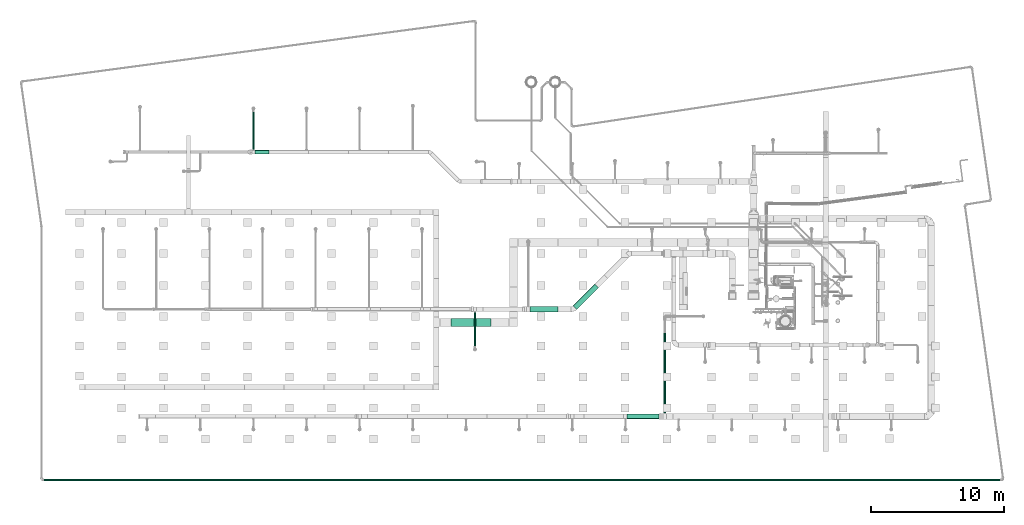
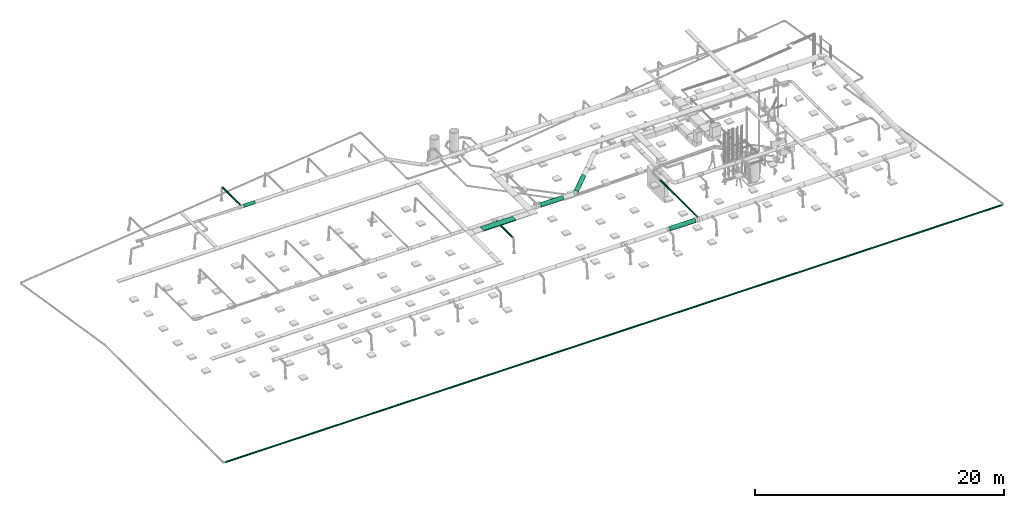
# One storey, part 201 of 374: 8 flow segments, 1 distribution element.
"""IFC2X3 building model written with IfcOpenShell, lengths in metres."""

import ifcopenshell
import ifcopenshell.guid

model = None  # the IFC model being written
_history = None  # IfcOwnerHistory: only IFC2X3 demands one
_inside = {}  # id of a spatial element -> (the spatial element, [elements in it])
_under = {}  # id of a project, library or spatial element -> (it, [spatial elements below it])
_declared = {}  # id of a project -> (the project, [libraries it declares])
_typed = {}  # id of a type object -> (the type object, [elements of that type])
_made_of = {}  # id of a material, layer set ... -> (it, [elements and type objects made of it])


def new_model(schema):
    """Start an empty IFC model of exactly this schema.

    Asked for "IFC4X3", IfcOpenShell would pick the latest addendum, in which some entities
    have other attributes; the version numbers below select the first issue.
    IFC2X3 requires an IfcOwnerHistory on every rooted entity: one is made here for all.
    """
    global model, _history
    if schema == "IFC4X3":
        model = ifcopenshell.file(schema_version=(4, 3, 0, 0))
    else:
        model = ifcopenshell.file(schema=schema)
    _inside.clear()
    _under.clear()
    _declared.clear()
    _typed.clear()
    _made_of.clear()
    _history = None
    if model.schema == "IFC2X3":
        org = make("IfcOrganization", Name="unknown")
        user = make(
            "IfcPersonAndOrganization",
            ThePerson=make("IfcPerson", FamilyName="unknown"),
            TheOrganization=org,
        )
        app = make(
            "IfcApplication",
            ApplicationDeveloper=org,
            Version="unknown",
            ApplicationFullName="unknown",
            ApplicationIdentifier="unknown",
        )
        _history = make(
            "IfcOwnerHistory",
            OwningUser=user,
            OwningApplication=app,
            ChangeAction="ADDED",
            CreationDate=0,
        )
    return model


def make(cls, **values):
    """One entity of the class cls with the attributes given. An attribute that is None is left unset."""
    return model.create_entity(
        cls, **{name: value for name, value in values.items() if value is not None}
    )


def rooted(cls, **values):
    """An entity with a GlobalId (a new one), such as an element, a storey or a relation."""
    return make(cls, GlobalId=ifcopenshell.guid.new(), OwnerHistory=_history, **values)


def si_unit(unit_type, name, prefix=None):
    """IfcSIUnit, for example si_unit("LENGTHUNIT", "METRE", prefix="MILLI")."""
    return make("IfcSIUnit", UnitType=unit_type, Prefix=prefix, Name=name)


def assignment(units):
    """IfcUnitAssignment: the units of a project."""
    return None if units is None else make("IfcUnitAssignment", Units=units)


def point(xyz):
    """IfcCartesianPoint."""
    return None if xyz is None else make("IfcCartesianPoint", Coordinates=xyz)


def direction(xyz):
    """IfcDirection."""
    return None if xyz is None else make("IfcDirection", DirectionRatios=xyz)


def frame(location, z_axis=None, x_axis=None):
    """IfcAxis2Placement3D, a coordinate frame: its origin and axes. An axis left out is left unset."""
    return make(
        "IfcAxis2Placement3D",
        Location=point(location),
        Axis=direction(z_axis),
        RefDirection=direction(x_axis),
    )


def origin():
    """The frame at (0, 0, 0) with its axes left unset."""
    return frame((0.0, 0.0, 0.0))


def place(relative_to, where):
    """IfcLocalPlacement: puts the frame where relative to a parent placement (None: the world)."""
    return make(
        "IfcLocalPlacement", PlacementRelTo=relative_to, RelativePlacement=where
    )


def context(
    kind, dimensions, precision=None, world=None, true_north=None, identifier=None
):
    """IfcGeometricRepresentationContext, for example the 3D "Model" context."""
    return make(
        "IfcGeometricRepresentationContext",
        ContextIdentifier=identifier,
        ContextType=kind,
        CoordinateSpaceDimension=dimensions,
        Precision=precision,
        WorldCoordinateSystem=world,
        TrueNorth=true_north,
    )


def subcontext(parent, identifier, kind, view, scale=None):
    """IfcGeometricRepresentationSubContext, for example "Body" below "Model"."""
    return make(
        "IfcGeometricRepresentationSubContext",
        ContextIdentifier=identifier,
        ContextType=kind,
        ParentContext=parent,
        TargetScale=scale,
        TargetView=view,
    )


def project(units=None, contexts=None):
    """IfcProject with its units and contexts."""
    return rooted(
        "IfcProject",
        Name="project",
        RepresentationContexts=contexts,
        UnitsInContext=assignment(units),
    )


def spatial(cls, under=None, at=None, **own):
    """A site, building, storey or space (cls), placed at a placement, below another one or the project."""
    s = rooted(cls, ObjectPlacement=at, **own)
    if under is not None:
        _under.setdefault(under.id(), (under, []))[1].append(s)
    return s


def faces_of(points, faces, orient=None, outer=None):
    """IfcFace entities. A face is a list of loops; a loop is a list of indices into points, from 0.

    orient and outer hold one flag for each loop. By default every Orientation is true, the
    first loop of a face is its IfcFaceOuterBound and the others are IfcFaceBound.
    """
    made = []
    for i, loops in enumerate(faces):
        bounds = []
        for j, loop in enumerate(loops):
            is_outer = j == 0 if outer is None else outer[i][j]
            bounds.append(
                make(
                    "IfcFaceOuterBound" if is_outer else "IfcFaceBound",
                    Bound=make("IfcPolyLoop", Polygon=[points[k] for k in loop]),
                    Orientation=True if orient is None else orient[i][j],
                )
            )
        made.append(make("IfcFace", Bounds=bounds))
    return made


def open_shell(faces, orient=None, outer=None):
    """The faces of one IfcOpenShell. surface_model builds it on its shared points."""
    return ("IfcOpenShell", faces, orient, outer)


def surface_model(cls, points, shells):
    """IfcFaceBasedSurfaceModel or IfcShellBasedSurfaceModel (cls): surfaces that need not close."""
    shared = [point(p) for p in points]
    made = [make(c, CfsFaces=faces_of(shared, fs, o, b)) for c, fs, o, b in shells]
    if cls == "IfcFaceBasedSurfaceModel":
        return make(cls, FbsmFaces=made)
    return make(cls, SbsmBoundary=made)


def shape(context_of_items, identifier, shape_type, items):
    """IfcShapeRepresentation: the items that make up one representation, for example the "Body"."""
    return make(
        "IfcShapeRepresentation",
        ContextOfItems=context_of_items,
        RepresentationIdentifier=identifier,
        RepresentationType=shape_type,
        Items=items,
    )


def source(mapping_origin, context_of_items, identifier, shape_type, items):
    """IfcRepresentationMap: a shape defined once, which mapped items show again and again."""
    return make(
        "IfcRepresentationMap",
        MappingOrigin=mapping_origin,
        MappedRepresentation=shape(context_of_items, identifier, shape_type, items),
    )


def transform(
    local_origin,
    x_axis=None,
    y_axis=None,
    z_axis=None,
    scale=None,
    scale2=None,
    scale3=None,
    uniform=True,
):
    """IfcCartesianTransformationOperator3D, or its non-uniform kind. x_axis, y_axis, z_axis: its Axis1, 2, 3."""
    if uniform:
        return make(
            "IfcCartesianTransformationOperator3D",
            Axis1=direction(x_axis),
            Axis2=direction(y_axis),
            LocalOrigin=point(local_origin),
            Scale=scale,
            Axis3=direction(z_axis),
        )
    return make(
        "IfcCartesianTransformationOperator3DnonUniform",
        Axis1=direction(x_axis),
        Axis2=direction(y_axis),
        LocalOrigin=point(local_origin),
        Scale=scale,
        Axis3=direction(z_axis),
        Scale2=scale2,
        Scale3=scale3,
    )


def mapped(mapping_source, mapping_target):
    """IfcMappedItem: shows the shape of a source again, moved by a transform."""
    return make(
        "IfcMappedItem", MappingSource=mapping_source, MappingTarget=mapping_target
    )


def made_of(thing, what):
    """Note that an element or type object is made of a material, layer set ...; save() writes the relation."""
    if what is not None:
        _made_of.setdefault(what.id(), (what, []))[1].append(thing)
    return thing


def element(
    cls,
    number,
    at=None,
    inside=None,
    cuts=None,
    type_object=None,
    material=None,
    context=None,
    identifier="Body",
    shape_type=None,
    held_by="IfcProductDefinitionShape",
    body=None,
    shapes=None,
    **own,
):
    """One element of the class cls, such as IfcWall. Its Tag is "e" and its number.

    at: its placement. inside: the storey or other place that contains it. cuts: it is an
    opening in that element (IfcRelVoidsElement). A single representation is given by context,
    identifier, shape_type and body (its items); several are given by shapes. held_by: the class
    of the entity that holds the representations. save() writes the other relations.
    """
    e = rooted(cls, Tag="e%d" % number, ObjectPlacement=at, **own)
    if body is not None:
        shapes = [shape(context, identifier, shape_type, body)]
    if shapes is not None:
        e.Representation = make(held_by, Representations=shapes)
    if inside is not None:
        _inside.setdefault(inside.id(), (inside, []))[1].append(e)
    if cuts is not None:
        rooted(
            "IfcRelVoidsElement", RelatingBuildingElement=cuts, RelatedOpeningElement=e
        )
    if type_object is not None:
        _typed.setdefault(type_object.id(), (type_object, []))[1].append(e)
    return made_of(e, material)


def aggregate(whole, parts):
    """IfcRelAggregates: a whole, such as a stair, and the parts it consists of."""
    return rooted("IfcRelAggregates", RelatingObject=whole, RelatedObjects=parts)


def save(model, path):
    """Write the relations noted so far, then the file.

    IfcRelAggregates (storeys below a building ...), IfcRelContainedInSpatialStructure (elements
    in a storey), IfcRelDefinesByType, IfcRelAssociatesMaterial and IfcRelDeclares: one each for
    every whole, place, type object, material and project.
    """
    for whole, parts in _under.values():
        aggregate(whole, parts)
    for where, things in _inside.values():
        rooted(
            "IfcRelContainedInSpatialStructure",
            RelatedElements=things,
            RelatingStructure=where,
        )
    for kind, things in _typed.values():
        rooted("IfcRelDefinesByType", RelatedObjects=things, RelatingType=kind)
    for what, things in _made_of.values():
        rooted("IfcRelAssociatesMaterial", RelatedObjects=things, RelatingMaterial=what)
    for by, libraries in _declared.values():
        rooted("IfcRelDeclares", RelatingContext=by, RelatedDefinitions=libraries)
    model.write(path)


model = new_model("IFC2X3")

# Units and contexts
model_context = context("Model", 3, precision=1e-05, world=origin(), true_north=direction((-0.4480736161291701, 0.8939966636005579)))
body_context = subcontext(model_context, "Body", "Model", "MODEL_VIEW")
ifc_project = project(units=[si_unit("LENGTHUNIT", "METRE"), si_unit("AREAUNIT", "SQUARE_METRE"), si_unit("VOLUMEUNIT", "CUBIC_METRE"), si_unit("PLANEANGLEUNIT", "RADIAN"), si_unit("THERMODYNAMICTEMPERATUREUNIT", "KELVIN"), si_unit("MASSUNIT", "GRAM", prefix="KILO"), si_unit("TIMEUNIT", "SECOND")], contexts=[model_context])

# Site, building, storey
site_placement = place(None, origin())
site = spatial("IfcSite", under=ifc_project, at=site_placement, Name="Site 1", CompositionType="ELEMENT")
building_placement = place(site_placement, origin())
building = spatial("IfcBuilding", under=site, at=building_placement, Name="Undefined", CompositionType="ELEMENT")
storey_placement = place(building_placement, origin())
storey = spatial("IfcBuildingStorey", under=building, at=storey_placement, Name="Rez de chauss\x8ee", CompositionType="ELEMENT", Elevation=0.0)

# Flow segments
shared_shape_1 = source(origin(), body_context, "Body", "SurfaceModel", [
    surface_model("IfcFaceBasedSurfaceModel", [(1.522483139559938e-08, 0.02088419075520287, 0.0), (0.0, 0.0, 0.0), (72.00146022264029, 4.4408921e-16, 0.0), (72.00146023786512, 0.02088419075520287, 0.0), (-1.4187284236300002e-08, -0.02017257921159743, -0.005405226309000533), (72.00146020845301, -0.020172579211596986, -0.005405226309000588), (-2.6370181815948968e-08, -0.03825881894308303, -0.0158473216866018), (72.00146019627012, -0.038258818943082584, -0.015847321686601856), (-3.571844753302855e-08, -0.05302617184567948, -0.030614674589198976), (72.00146018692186, -0.053026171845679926, -0.030614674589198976), (-4.1595012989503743e-08, -0.06346826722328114, -0.04870091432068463), (72.00146018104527, -0.06346826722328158, -0.04870091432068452), (-4.3599400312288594e-08, -0.06887349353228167, -0.06887349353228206), (72.00146017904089, -0.06887349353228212, -0.06887349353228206), (-4.1595012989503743e-08, -0.06887349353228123, -0.08975768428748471), (72.00146018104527, -0.06887349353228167, -0.0897576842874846), (-3.571844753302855e-08, -0.06346826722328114, -0.10993026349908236), (72.00146018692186, -0.06346826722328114, -0.10993026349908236), (-2.6370181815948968e-08, -0.053026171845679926, -0.12801650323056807), (72.00146019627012, -0.053026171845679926, -0.12801650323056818), (-1.4187284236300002e-08, -0.03825881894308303, -0.14278385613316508), (72.00146020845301, -0.038258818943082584, -0.1427838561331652), (0.0, -0.020172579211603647, -0.15322595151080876), (72.00146022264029, -0.020172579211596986, -0.1532259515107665), (1.522483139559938e-08, 4.4408921e-16, -0.15863117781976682), (72.00146023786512, 4.4408921e-16, -0.15863117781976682), (3.044966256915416e-08, 0.02088419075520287, -0.15863117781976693), (72.00146025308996, 0.020884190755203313, -0.15863117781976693), (4.463694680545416e-08, 0.041056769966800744, -0.1532259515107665), (72.00146026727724, 0.041056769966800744, -0.1532259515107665), (5.681984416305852e-08, 0.05914300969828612, -0.1427838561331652), (72.00146027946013, 0.05914300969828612, -0.1427838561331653), (6.616811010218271e-08, 0.07391036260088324, -0.12801650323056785), (72.0014602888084, 0.07391036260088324, -0.12801650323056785), (7.20446755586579e-08, 0.08435245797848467, -0.10993026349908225), (72.00146029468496, 0.0843524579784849, -0.10993026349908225), (7.404906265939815e-08, 0.0897576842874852, -0.08975768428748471), (72.00146029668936, 0.08975768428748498, -0.08975768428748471), (7.20446755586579e-08, 0.0897576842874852, -0.06887349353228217), (72.00146029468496, 0.08975768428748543, -0.06887349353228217), (6.616811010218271e-08, 0.08435245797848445, -0.04870091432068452), (72.0014602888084, 0.08435245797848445, -0.04870091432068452), (5.681984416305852e-08, 0.07391036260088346, -0.03061467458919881), (72.00146027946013, 0.07391036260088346, -0.030614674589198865), (4.463694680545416e-08, 0.05914300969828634, -0.0158473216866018), (72.00146026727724, 0.05914300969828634, -0.0158473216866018), (3.044966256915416e-08, 0.04105676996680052, -0.005405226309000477), (72.00146025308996, 0.041056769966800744, -0.005405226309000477)], [open_shell([[[0, 1, 2, 3]], [[1, 4, 5, 2]], [[4, 6, 7, 5]], [[6, 8, 9, 7]], [[8, 10, 11, 9]], [[10, 12, 13, 11]], [[12, 14, 15, 13]], [[14, 16, 17, 15]], [[16, 18, 19, 17]], [[18, 20, 21, 19]], [[20, 22, 23, 21]], [[22, 24, 25, 23]], [[24, 26, 27, 25]], [[26, 28, 29, 27]], [[28, 30, 31, 29]], [[30, 32, 33, 31]], [[32, 34, 35, 33]], [[34, 36, 37, 35]], [[36, 38, 39, 37]], [[38, 40, 41, 39]], [[40, 42, 43, 41]], [[42, 44, 45, 43]], [[44, 46, 47, 45]], [[46, 0, 3, 47]]])]),
])
flow_segment_1_placement = place(storey_placement, origin())
element("IfcFlowSegment", 1, at=flow_segment_1_placement, inside=storey, Name="PE-HD tuyau", ObjectType="PE-HD tuyau", context=body_context, shape_type="MappedRepresentation", body=[
    mapped(shared_shape_1, transform((-1.4937931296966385, -1.9462605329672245, -0.7163137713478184), x_axis=(0.9999999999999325, 3.6765144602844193e-07, 0.0), y_axis=(-3.645061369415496e-07, 0.9914448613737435, 0.13052619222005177), z_axis=(4.798814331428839e-08, -0.13052619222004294, 0.9914448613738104))),
])
shared_shape_2 = source(origin(), body_context, "Body", "SurfaceModel", [
    surface_model("IfcFaceBasedSurfaceModel", [(0.0, 0.05221047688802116, -8.8817842e-16), (0.0, 0.0, 0.0), (2.306370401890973, 7.105427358e-15, -4.4408921e-16), (2.306370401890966, 0.052210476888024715, -8.8817842e-16), (0.0, -0.05043144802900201, -0.013513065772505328), (2.306370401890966, -0.05043144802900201, -0.01351306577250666), (0.0, -0.09564704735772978, -0.0396183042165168), (2.306370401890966, -0.09564704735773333, -0.0396183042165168), (0.0, -0.1325654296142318, -0.07653668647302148), (2.306370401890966, -0.1325654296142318, -0.07653668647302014), (0.0, -0.15867066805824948, -0.12175228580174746), (2.306370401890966, -0.15867066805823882, -0.12175228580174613), (0.0, -0.17218373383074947, -0.17218373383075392), (2.306370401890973, -0.17218373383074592, -0.17218373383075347), (0.0, -0.17218373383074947, -0.22439421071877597), (2.306370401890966, -0.17218373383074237, -0.22439421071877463), (0.0, -0.15867066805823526, -0.2748256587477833), (2.306370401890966, -0.15867066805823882, -0.274825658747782), (0.0, -0.1325654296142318, -0.3200412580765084), (2.306370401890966, -0.13256542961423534, -0.3200412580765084), (0.0, -0.09564704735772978, -0.35695964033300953), (2.306370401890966, -0.09564704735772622, -0.35695964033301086), (0.0, -0.050431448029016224, -0.3830648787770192), (2.306370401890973, -0.05043144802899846, -0.383064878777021), (0.0, 0.0, -0.39657794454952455), (2.306370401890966, 7.105427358e-15, -0.39657794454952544), (0.0, 0.05221047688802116, -0.3965779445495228), (2.306370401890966, 0.05221047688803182, -0.3965779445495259), (0.0, 0.10264192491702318, -0.38306487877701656), (2.306370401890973, 0.10264192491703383, -0.38306487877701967), (0.0, 0.14785752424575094, -0.356959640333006), (2.306370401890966, 0.1478575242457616, -0.35695964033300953), (0.0, 0.18477590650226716, -0.32004125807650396), (2.306370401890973, 0.1847759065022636, -0.32004125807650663), (0.0, 0.21088114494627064, -0.2748256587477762), (2.306370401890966, 0.21088114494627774, -0.2748256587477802), (0.0, 0.22439421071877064, -0.22439421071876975), (2.306370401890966, 0.2243942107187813, -0.22439421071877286), (0.0, 0.22439421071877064, -0.1721837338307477), (2.306370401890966, 0.2243942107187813, -0.1721837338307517), (0.0, 0.21088114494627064, -0.12175228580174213), (2.306370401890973, 0.21088114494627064, -0.1217522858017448), (0.0, 0.18477590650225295, -0.07653668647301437), (2.306370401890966, 0.1847759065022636, -0.07653668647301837), (0.0, 0.14785752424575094, -0.03961830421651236), (2.306370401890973, 0.14785752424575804, -0.039618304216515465), (0.0, 0.10264192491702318, -0.013513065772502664), (2.306370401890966, 0.10264192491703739, -0.013513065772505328)], [open_shell([[[0, 1, 2, 3]], [[1, 4, 5, 2]], [[4, 6, 7, 5]], [[6, 8, 9, 7]], [[8, 10, 11, 9]], [[10, 12, 13, 11]], [[12, 14, 15, 13]], [[14, 16, 17, 15]], [[16, 18, 19, 17]], [[18, 20, 21, 19]], [[20, 22, 23, 21]], [[22, 24, 25, 23]], [[24, 26, 27, 25]], [[26, 28, 29, 27]], [[28, 30, 31, 29]], [[30, 32, 33, 31]], [[32, 34, 35, 33]], [[34, 36, 37, 35]], [[36, 38, 39, 37]], [[38, 40, 41, 39]], [[40, 42, 43, 41]], [[42, 44, 45, 43]], [[44, 46, 47, 45]], [[46, 0, 3, 47]]])]),
])
flow_segment_2_placement = place(storey_placement, origin())
element("IfcFlowSegment", 2, at=flow_segment_2_placement, inside=storey, Name="Tube", ObjectType="Tube", context=body_context, shape_type="MappedRepresentation", body=[
    mapped(shared_shape_2, transform((40.08847740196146, 12.703803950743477, 3.9931851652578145), x_axis=(-0.7071067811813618, -0.7071067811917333, 1.4287841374e-14), y_axis=(0.7010573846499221, -0.7010573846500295, 0.13052619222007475), z_axis=(-0.09229595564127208, 0.09229595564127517, 0.9914448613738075))),
])
shared_shape_3 = source(origin(), body_context, "Body", "SurfaceModel", [
    surface_model("IfcFaceBasedSurfaceModel", [(0.0, 0.05221047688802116, -8.8817842e-16), (0.0, 0.0, 0.0), (2.1053912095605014, 1.776356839e-15, -8.8817842e-16), (2.1053912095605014, 0.05221047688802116, -8.8817842e-16), (0.0, -0.05043144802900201, -0.013513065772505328), (2.1053912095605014, -0.05043144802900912, -0.013513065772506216), (0.0, -0.09564704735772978, -0.0396183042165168), (2.1053912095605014, -0.09564704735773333, -0.03961830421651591), (0.0, -0.1325654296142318, -0.07653668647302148), (2.1053912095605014, -0.13256542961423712, -0.07653668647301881), (0.0, -0.15867066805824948, -0.12175228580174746), (2.1053912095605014, -0.15867066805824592, -0.1217522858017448), (0.0, -0.17218373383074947, -0.17218373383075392), (2.1053912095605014, -0.17218373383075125, -0.17218373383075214), (0.0, -0.17218373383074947, -0.22439421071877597), (2.1053912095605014, -0.17218373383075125, -0.2243942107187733), (0.0, -0.15867066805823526, -0.2748256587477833), (2.1053912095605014, -0.1586706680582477, -0.27482565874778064), (0.0, -0.1325654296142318, -0.3200412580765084), (2.1053912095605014, -0.13256542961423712, -0.3200412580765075), (0.0, -0.09564704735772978, -0.35695964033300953), (2.1053912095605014, -0.0956470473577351, -0.3569596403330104), (0.0, -0.050431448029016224, -0.3830648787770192), (2.1053912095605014, -0.05043144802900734, -0.383064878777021), (0.0, 0.0, -0.39657794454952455), (2.1053912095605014, -1.776356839e-15, -0.39657794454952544), (0.0, 0.05221047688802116, -0.3965779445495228), (2.1053912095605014, 0.05221047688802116, -0.39657794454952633), (0.0, 0.10264192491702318, -0.38306487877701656), (2.1053912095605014, 0.10264192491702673, -0.383064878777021), (0.0, 0.14785752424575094, -0.356959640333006), (2.1053912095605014, 0.1478575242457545, -0.3569596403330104), (0.0, 0.18477590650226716, -0.32004125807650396), (2.1053912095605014, 0.18477590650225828, -0.3200412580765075), (0.0, 0.21088114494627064, -0.2748256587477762), (2.1053912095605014, 0.21088114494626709, -0.27482565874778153), (0.0, 0.22439421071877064, -0.22439421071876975), (2.1053912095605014, 0.2243942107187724, -0.2243942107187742), (0.0, 0.22439421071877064, -0.1721837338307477), (2.1053912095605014, 0.2243942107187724, -0.17218373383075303), (0.0, 0.21088114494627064, -0.12175228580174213), (2.1053912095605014, 0.21088114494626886, -0.12175228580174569), (0.0, 0.18477590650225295, -0.07653668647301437), (2.1053912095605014, 0.18477590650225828, -0.0765366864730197), (0.0, 0.14785752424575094, -0.03961830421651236), (2.1053912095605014, 0.14785752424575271, -0.0396183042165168), (0.0, 0.10264192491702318, -0.013513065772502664), (2.1053912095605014, 0.1026419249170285, -0.013513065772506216)], [open_shell([[[0, 1, 2, 3]], [[1, 4, 5, 2]], [[4, 6, 7, 5]], [[6, 8, 9, 7]], [[8, 10, 11, 9]], [[10, 12, 13, 11]], [[12, 14, 15, 13]], [[14, 16, 17, 15]], [[16, 18, 19, 17]], [[18, 20, 21, 19]], [[20, 22, 23, 21]], [[22, 24, 25, 23]], [[24, 26, 27, 25]], [[26, 28, 29, 27]], [[28, 30, 31, 29]], [[30, 32, 33, 31]], [[32, 34, 35, 33]], [[34, 36, 37, 35]], [[36, 38, 39, 37]], [[38, 40, 41, 39]], [[40, 42, 43, 41]], [[42, 44, 45, 43]], [[44, 46, 47, 45]], [[46, 0, 3, 47]]])]),
])
flow_segment_3_placement = place(storey_placement, origin())
element("IfcFlowSegment", 3, at=flow_segment_3_placement, inside=storey, Name="Tube", ObjectType="Tube", context=body_context, shape_type="MappedRepresentation", body=[
    mapped(shared_shape_3, transform((37.21138707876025, 10.970957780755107, 3.9931851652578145), x_axis=(-1.0, 0.0, 0.0), y_axis=(7.266545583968e-12, -0.9914448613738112, 0.13052619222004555), z_axis=(0.0, 0.13052619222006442, 0.9914448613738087))),
])
shared_shape_4 = source(origin(), body_context, "Body", "SurfaceModel", [
    surface_model("IfcFaceBasedSurfaceModel", [(0.0, 0.020884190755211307, 0.0), (0.0, 0.0, 0.0), (2.5475826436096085, 0.0, 6.9388939e-16), (2.5475826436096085, 0.020884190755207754, 6.9388939e-16), (0.0, -0.020172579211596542, -0.005405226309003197), (2.5475826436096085, -0.020172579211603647, -0.005405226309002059), (0.0, -0.03825881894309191, -0.015847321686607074), (2.5475826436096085, -0.03825881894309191, -0.01584732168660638), (0.0, -0.05302617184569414, -0.0306146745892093), (2.5475826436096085, -0.05302617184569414, -0.030614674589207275), (0.0, -0.06346826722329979, -0.04870091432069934), (2.5475826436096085, -0.06346826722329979, -0.048700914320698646), (0.0, -0.06887349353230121, -0.06887349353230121), (2.5475826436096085, -0.06887349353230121, -0.06887349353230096), (0.0, -0.06887349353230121, -0.08975768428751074), (2.5475826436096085, -0.06887349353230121, -0.0897576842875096), (0.0, -0.06346826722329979, -0.10993026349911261), (2.5475826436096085, -0.06346826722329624, -0.10993026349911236), (0.0, -0.05302617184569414, -0.12801650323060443), (2.5475826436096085, -0.053026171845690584, -0.1280165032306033), (0.0, -0.038258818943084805, -0.14278385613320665), (2.5475826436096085, -0.03825881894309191, -0.14278385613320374), (0.0, -0.020172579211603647, -0.15322595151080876), (2.5475826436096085, -0.020172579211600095, -0.15322595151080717), (0.0, 7.105427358e-15, -0.15863117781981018), (2.5475826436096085, 3.552713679e-15, -0.15863117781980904), (0.0, 0.020884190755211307, -0.15863117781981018), (2.5475826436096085, 0.020884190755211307, -0.1586311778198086), (0.0, 0.04105676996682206, -0.15322595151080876), (2.5475826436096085, 0.0410567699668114, -0.15322595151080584), (0.0, 0.05914300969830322, -0.1427838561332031), (2.5475826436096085, 0.05914300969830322, -0.14278385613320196), (0.0, 0.07391036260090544, -0.12801650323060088), (2.5475826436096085, 0.07391036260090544, -0.12801650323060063), (0.0, 0.0843524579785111, -0.10993026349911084), (2.5475826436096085, 0.08435245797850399, -0.1099302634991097), (0.0, 0.08975768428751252, -0.08975768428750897), (2.5475826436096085, 0.08975768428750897, -0.08975768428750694), (0.0, 0.08975768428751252, -0.06887349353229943), (2.5475826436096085, 0.08975768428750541, -0.06887349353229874), (0.0, 0.0843524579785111, -0.048700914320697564), (2.5475826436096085, 0.08435245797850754, -0.04870091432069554), (0.0, 0.07391036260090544, -0.030614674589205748), (2.5475826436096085, 0.07391036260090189, -0.030614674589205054), (0.0, 0.05914300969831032, -0.015847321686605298), (2.5475826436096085, 0.059143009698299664, -0.01584732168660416), (0.0, 0.04105676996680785, -0.005405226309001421), (2.5475826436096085, 0.0410567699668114, -0.005405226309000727)], [open_shell([[[0, 1, 2, 3]], [[1, 4, 5, 2]], [[4, 6, 7, 5]], [[6, 8, 9, 7]], [[8, 10, 11, 9]], [[10, 12, 13, 11]], [[12, 14, 15, 13]], [[14, 16, 17, 15]], [[16, 18, 19, 17]], [[18, 20, 21, 19]], [[20, 22, 23, 21]], [[22, 24, 25, 23]], [[24, 26, 27, 25]], [[26, 28, 29, 27]], [[28, 30, 31, 29]], [[30, 32, 33, 31]], [[32, 34, 35, 33]], [[34, 36, 37, 35]], [[36, 38, 39, 37]], [[38, 40, 41, 39]], [[40, 42, 43, 41]], [[42, 44, 45, 43]], [[44, 46, 47, 45]], [[46, 0, 3, 47]]])]),
])
flow_segment_4_placement = place(storey_placement, origin())
element("IfcFlowSegment", 4, at=flow_segment_4_placement, inside=storey, Name="Tube", ObjectType="Tube", context=body_context, shape_type="MappedRepresentation", body=[
    mapped(shared_shape_4, transform((30.943919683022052, 10.689193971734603, 3.877274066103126), x_axis=(0.0, -1.0, 0.0), y_axis=(0.9914448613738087, 0.0, 0.13052619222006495), z_axis=(-0.13052619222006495, 0.0, 0.9914448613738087))),
])
shared_shape_5 = source(origin(), body_context, "Body", "SurfaceModel", [
    surface_model("IfcFaceBasedSurfaceModel", [(0.0, 0.05221047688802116, -8.8817842e-16), (0.0, 0.0, 0.0), (2.411199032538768, 0.0, 0.0), (2.411199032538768, 0.05221047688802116, -8.8817842e-16), (0.0, -0.05043144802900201, -0.013513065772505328), (2.411199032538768, -0.05043144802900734, -0.013513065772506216), (0.0, -0.09564704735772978, -0.0396183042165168), (2.411199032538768, -0.09564704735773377, -0.03961830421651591), (0.0, -0.1325654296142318, -0.07653668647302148), (2.411199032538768, -0.13256542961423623, -0.07653668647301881), (0.0, -0.15867066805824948, -0.12175228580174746), (2.411199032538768, -0.15867066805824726, -0.1217522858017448), (0.0, -0.17218373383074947, -0.17218373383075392), (2.411199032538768, -0.1721837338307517, -0.17218373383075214), (0.0, -0.17218373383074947, -0.22439421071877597), (2.411199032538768, -0.17218373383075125, -0.2243942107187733), (0.0, -0.15867066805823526, -0.2748256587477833), (2.411199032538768, -0.1586706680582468, -0.27482565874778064), (0.0, -0.1325654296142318, -0.3200412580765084), (2.411199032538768, -0.13256542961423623, -0.3200412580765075), (0.0, -0.09564704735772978, -0.35695964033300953), (2.411199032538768, -0.09564704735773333, -0.35695964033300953), (0.0, -0.050431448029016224, -0.3830648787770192), (2.411199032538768, -0.050431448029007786, -0.38306487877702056), (0.0, 0.0, -0.39657794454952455), (2.411199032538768, 0.0, -0.396577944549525), (0.0, 0.05221047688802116, -0.3965779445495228), (2.411199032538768, 0.05221047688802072, -0.396577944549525), (0.0, 0.10264192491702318, -0.38306487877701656), (2.411199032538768, 0.10264192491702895, -0.3830648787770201), (0.0, 0.14785752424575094, -0.356959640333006), (2.411199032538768, 0.14785752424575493, -0.35695964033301), (0.0, 0.18477590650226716, -0.32004125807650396), (2.411199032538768, 0.1847759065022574, -0.32004125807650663), (0.0, 0.21088114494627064, -0.2748256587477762), (2.411199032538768, 0.21088114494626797, -0.27482565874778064), (0.0, 0.22439421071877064, -0.22439421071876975), (2.411199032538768, 0.22439421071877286, -0.2243942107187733), (0.0, 0.22439421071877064, -0.1721837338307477), (2.411199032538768, 0.2243942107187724, -0.17218373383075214), (0.0, 0.21088114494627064, -0.12175228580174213), (2.411199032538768, 0.21088114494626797, -0.1217522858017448), (0.0, 0.18477590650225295, -0.07653668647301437), (2.411199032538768, 0.1847759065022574, -0.07653668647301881), (0.0, 0.14785752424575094, -0.03961830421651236), (2.411199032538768, 0.14785752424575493, -0.03961830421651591), (0.0, 0.10264192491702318, -0.013513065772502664), (2.411199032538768, 0.1026419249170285, -0.013513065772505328)], [open_shell([[[0, 1, 2, 3]], [[1, 4, 5, 2]], [[4, 6, 7, 5]], [[6, 8, 9, 7]], [[8, 10, 11, 9]], [[10, 12, 13, 11]], [[12, 14, 15, 13]], [[14, 16, 17, 15]], [[16, 18, 19, 17]], [[18, 20, 21, 19]], [[20, 22, 23, 21]], [[22, 24, 25, 23]], [[24, 26, 27, 25]], [[26, 28, 29, 27]], [[28, 30, 31, 29]], [[30, 32, 33, 31]], [[32, 34, 35, 33]], [[34, 36, 37, 35]], [[36, 38, 39, 37]], [[38, 40, 41, 39]], [[40, 42, 43, 41]], [[42, 44, 45, 43]], [[44, 46, 47, 45]], [[46, 0, 3, 47]]])]),
])
flow_segment_5_placement = place(storey_placement, origin())
element("IfcFlowSegment", 5, at=flow_segment_5_placement, inside=storey, Name="Tube", ObjectType="Tube", context=body_context, shape_type="MappedRepresentation", body=[
    mapped(shared_shape_5, transform((44.8312001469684, 2.903061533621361, 3.9931851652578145), x_axis=(-1.0, 0.0, 0.0), y_axis=(7.266545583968e-12, -0.9914448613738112, 0.13052619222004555), z_axis=(0.0, 0.13052619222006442, 0.9914448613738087))),
])
shared_shape_6 = source(origin(), body_context, "Body", "SurfaceModel", [
    surface_model("IfcFaceBasedSurfaceModel", [(0.0, 0.04111575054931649, 0.0), (0.0, 0.0, 0.0), (1.0331427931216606, 0.0, 0.0), (1.0331427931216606, 0.04111575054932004, 0.0), (0.0, -0.03971476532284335, -0.010641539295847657), (1.0331427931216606, -0.03971476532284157, -0.010641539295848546), (0.0, -0.0753220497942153, -0.0311994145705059), (1.0331427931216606, -0.07532204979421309, -0.0311994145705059), (0.0, -0.10439527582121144, -0.060272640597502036), (1.0331427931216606, -0.10439527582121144, -0.06027264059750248), (0.0, -0.12495315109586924, -0.09587992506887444), (1.0331427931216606, -0.12495315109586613, -0.09587992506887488), (0.0, -0.13559469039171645, -0.13559469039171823), (1.0331427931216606, -0.1355946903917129, -0.13559469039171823), (0.0, -0.135594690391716, -0.17671044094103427), (1.0331427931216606, -0.1355946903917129, -0.17671044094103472), (0.0, -0.1249531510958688, -0.21642520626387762), (1.0331427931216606, -0.12495315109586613, -0.21642520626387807), (0.0, -0.10439527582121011, -0.2520324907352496), (1.0331427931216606, -0.10439527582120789, -0.2520324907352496), (0.0, -0.07532204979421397, -0.2811057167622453), (1.0331427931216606, -0.07532204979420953, -0.28110571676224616), (0.0, -0.039714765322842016, -0.3016635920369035), (1.0331427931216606, -0.03971476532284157, -0.3016635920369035), (0.0, 1.776356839e-15, -0.3123051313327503), (1.0331427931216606, 3.552713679e-15, -0.3123051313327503), (0.0, 0.041115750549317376, -0.31230513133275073), (1.0331427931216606, 0.04111575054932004, -0.3123051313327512), (0.0, 0.08083051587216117, -0.30166359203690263), (1.0331427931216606, 0.08083051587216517, -0.30166359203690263), (0.0, 0.11643780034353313, -0.28110571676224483), (1.0331427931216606, 0.11643780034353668, -0.2811057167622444), (0.0, 0.14551102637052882, -0.25203249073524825), (1.0331427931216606, 0.14551102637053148, -0.2520324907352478), (0.0, 0.16606890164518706, -0.2164252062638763), (1.0331427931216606, 0.16606890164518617, -0.2164252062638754), (0.0, 0.17671044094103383, -0.1767104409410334), (1.0331427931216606, 0.1767104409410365, -0.17671044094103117), (0.0, 0.17671044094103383, -0.1355946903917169), (1.0331427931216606, 0.17671044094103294, -0.13559469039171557), (0.0, 0.16606890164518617, -0.09587992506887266), (1.0331427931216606, 0.16606890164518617, -0.09587992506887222), (0.0, 0.14551102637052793, -0.06027264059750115), (1.0331427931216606, 0.14551102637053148, -0.060272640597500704), (0.0, 0.1164378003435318, -0.031199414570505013), (1.0331427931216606, 0.11643780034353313, -0.031199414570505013), (0.0, 0.08083051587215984, -0.010641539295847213), (1.0331427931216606, 0.08083051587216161, -0.01064153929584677)], [open_shell([[[0, 1, 2, 3]], [[1, 4, 5, 2]], [[4, 6, 7, 5]], [[6, 8, 9, 7]], [[8, 10, 11, 9]], [[10, 12, 13, 11]], [[12, 14, 15, 13]], [[14, 16, 17, 15]], [[16, 18, 19, 17]], [[18, 20, 21, 19]], [[20, 22, 23, 21]], [[22, 24, 25, 23]], [[24, 26, 27, 25]], [[26, 28, 29, 27]], [[28, 30, 31, 29]], [[30, 32, 33, 31]], [[32, 34, 35, 33]], [[34, 36, 37, 35]], [[36, 38, 39, 37]], [[38, 40, 41, 39]], [[40, 42, 43, 41]], [[42, 44, 45, 43]], [[44, 46, 47, 45]], [[46, 0, 3, 47]]])]),
])
flow_segment_6_placement = place(storey_placement, origin())
element("IfcFlowSegment", 6, at=flow_segment_6_placement, inside=storey, Name="Tube", ObjectType="Tube", context=body_context, shape_type="MappedRepresentation", body=[
    mapped(shared_shape_6, transform((15.453143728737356, 22.785693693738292, 3.952133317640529), x_axis=(-1.0, 0.0, 0.0), y_axis=(7.266545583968e-12, -0.9914448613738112, 0.13052619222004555), z_axis=(0.0, 0.13052619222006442, 0.9914448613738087))),
])
shared_shape_7 = source(origin(), body_context, "Body", "SurfaceModel", [
    surface_model("IfcFaceBasedSurfaceModel", [(0.0, 0.020884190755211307, 0.0), (0.0, 0.0, 0.0), (2.835069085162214, 1.776356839e-15, 0.0), (2.835069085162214, 0.02088419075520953, 0.0), (0.0, -0.020172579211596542, -0.005405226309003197), (2.835069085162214, -0.02017257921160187, -0.005405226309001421), (0.0, -0.03825881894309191, -0.015847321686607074), (2.835069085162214, -0.03825881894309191, -0.015847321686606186), (0.0, -0.05302617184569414, -0.0306146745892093), (2.835069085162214, -0.05302617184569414, -0.030614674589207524), (0.0, -0.06346826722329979, -0.04870091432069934), (2.835069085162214, -0.06346826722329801, -0.04870091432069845), (0.0, -0.06887349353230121, -0.06887349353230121), (2.835069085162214, -0.06887349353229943, -0.06887349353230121), (0.0, -0.06887349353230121, -0.08975768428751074), (2.835069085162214, -0.06887349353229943, -0.08975768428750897), (0.0, -0.06346826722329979, -0.10993026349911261), (2.835069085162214, -0.06346826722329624, -0.10993026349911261), (0.0, -0.05302617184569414, -0.12801650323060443), (2.835069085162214, -0.05302617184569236, -0.12801650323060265), (0.0, -0.038258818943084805, -0.14278385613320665), (2.835069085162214, -0.038258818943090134, -0.1427838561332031), (0.0, -0.020172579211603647, -0.15322595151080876), (2.835069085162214, -0.020172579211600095, -0.15322595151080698), (0.0, 7.105427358e-15, -0.15863117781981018), (2.835069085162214, 1.776356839e-15, -0.1586311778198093), (0.0, 0.020884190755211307, -0.15863117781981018), (2.835069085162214, 0.020884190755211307, -0.1586311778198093), (0.0, 0.04105676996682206, -0.15322595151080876), (2.835069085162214, 0.041056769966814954, -0.15322595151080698), (0.0, 0.05914300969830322, -0.1427838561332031), (2.835069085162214, 0.059143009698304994, -0.1427838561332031), (0.0, 0.07391036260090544, -0.12801650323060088), (2.835069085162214, 0.07391036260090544, -0.12801650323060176), (0.0, 0.0843524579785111, -0.10993026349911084), (2.835069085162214, 0.08435245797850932, -0.10993026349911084), (0.0, 0.08975768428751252, -0.08975768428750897), (2.835069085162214, 0.08975768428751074, -0.08975768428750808), (0.0, 0.08975768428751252, -0.06887349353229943), (2.835069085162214, 0.08975768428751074, -0.06887349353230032), (0.0, 0.0843524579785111, -0.048700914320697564), (2.835069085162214, 0.08435245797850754, -0.048700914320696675), (0.0, 0.07391036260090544, -0.030614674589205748), (2.835069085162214, 0.07391036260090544, -0.030614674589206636), (0.0, 0.05914300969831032, -0.015847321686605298), (2.835069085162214, 0.05914300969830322, -0.015847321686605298), (0.0, 0.04105676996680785, -0.005405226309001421), (2.835069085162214, 0.04105676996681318, -0.005405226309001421)], [open_shell([[[0, 1, 2, 3]], [[1, 4, 5, 2]], [[4, 6, 7, 5]], [[6, 8, 9, 7]], [[8, 10, 11, 9]], [[10, 12, 13, 11]], [[12, 14, 15, 13]], [[14, 16, 17, 15]], [[16, 18, 19, 17]], [[18, 20, 21, 19]], [[20, 22, 23, 21]], [[22, 24, 25, 23]], [[24, 26, 27, 25]], [[26, 28, 29, 27]], [[28, 30, 31, 29]], [[30, 32, 33, 31]], [[32, 34, 35, 33]], [[34, 36, 37, 35]], [[36, 38, 39, 37]], [[38, 40, 41, 39]], [[40, 42, 43, 41]], [[42, 44, 45, 43]], [[44, 46, 47, 45]], [[46, 0, 3, 47]]])]),
])
flow_segment_7_placement = place(storey_placement, origin())
element("IfcFlowSegment", 7, at=flow_segment_7_placement, inside=storey, Name="Tube", ObjectType="Tube", context=body_context, shape_type="MappedRepresentation", body=[
    mapped(shared_shape_7, transform((14.310706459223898, 22.954929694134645, 3.877274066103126), x_axis=(0.0, 1.0, 0.0), y_axis=(-0.9914448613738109, 0.0, 0.1305261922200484), z_axis=(0.1305261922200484, 0.0, 0.9914448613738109))),
])
shared_shape_8 = source(origin(), body_context, "Body", "SurfaceModel", [
    surface_model("IfcFaceBasedSurfaceModel", [(0.0, 0.020884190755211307, 0.0), (0.0, 0.0, 0.0), (6.0, 0.0, 8.8817842e-16), (6.0, 0.020884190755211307, -1.776356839e-15), (0.0, -0.020172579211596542, -0.005405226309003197), (6.0, -0.020172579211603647, -0.005405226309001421), (0.0, -0.03825881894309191, -0.015847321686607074), (6.0, -0.038258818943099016, -0.015847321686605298), (0.0, -0.05302617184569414, -0.0306146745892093), (6.0, -0.05302617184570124, -0.030614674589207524), (0.0, -0.06346826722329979, -0.04870091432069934), (6.0, -0.0634682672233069, -0.048700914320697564), (0.0, -0.06887349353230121, -0.06887349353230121), (6.0, -0.06887349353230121, -0.06887349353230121), (0.0, -0.06887349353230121, -0.08975768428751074), (6.0, -0.06887349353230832, -0.08975768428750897), (0.0, -0.06346826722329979, -0.10993026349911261), (6.0, -0.0634682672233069, -0.10993026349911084), (0.0, -0.05302617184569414, -0.12801650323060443), (6.0, -0.05302617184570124, -0.12801650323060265), (0.0, -0.038258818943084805, -0.14278385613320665), (6.0, -0.03825881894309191, -0.1427838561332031), (0.0, -0.020172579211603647, -0.15322595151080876), (6.0, -0.020172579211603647, -0.15322595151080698), (0.0, 7.105427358e-15, -0.15863117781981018), (6.0, 0.0, -0.15863117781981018), (0.0, 0.020884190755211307, -0.15863117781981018), (6.0, 0.0208841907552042, -0.15863117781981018), (0.0, 0.04105676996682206, -0.15322595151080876), (6.0, 0.041056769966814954, -0.15322595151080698), (0.0, 0.05914300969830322, -0.1427838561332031), (6.0, 0.05914300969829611, -0.14278385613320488), (0.0, 0.07391036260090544, -0.12801650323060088), (6.0, 0.07391036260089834, -0.12801650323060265), (0.0, 0.0843524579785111, -0.10993026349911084), (6.0, 0.0843524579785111, -0.10993026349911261), (0.0, 0.08975768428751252, -0.08975768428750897), (6.0, 0.08975768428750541, -0.08975768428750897), (0.0, 0.08975768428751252, -0.06887349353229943), (6.0, 0.08975768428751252, -0.06887349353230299), (0.0, 0.0843524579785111, -0.048700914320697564), (6.0, 0.08435245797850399, -0.048700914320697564), (0.0, 0.07391036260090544, -0.030614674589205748), (6.0, 0.07391036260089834, -0.030614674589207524), (0.0, 0.05914300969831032, -0.015847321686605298), (6.0, 0.05914300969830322, -0.015847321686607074), (0.0, 0.04105676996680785, -0.005405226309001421), (6.0, 0.04105676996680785, -0.005405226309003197)], [open_shell([[[0, 1, 2, 3]], [[1, 4, 5, 2]], [[4, 6, 7, 5]], [[6, 8, 9, 7]], [[8, 10, 11, 9]], [[10, 12, 13, 11]], [[12, 14, 15, 13]], [[14, 16, 17, 15]], [[16, 18, 19, 17]], [[18, 20, 21, 19]], [[20, 22, 23, 21]], [[22, 24, 25, 23]], [[24, 26, 27, 25]], [[26, 28, 29, 27]], [[28, 30, 31, 29]], [[30, 32, 33, 31]], [[32, 34, 35, 33]], [[34, 36, 37, 35]], [[36, 38, 39, 37]], [[38, 40, 41, 39]], [[40, 42, 43, 41]], [[42, 44, 45, 43]], [[44, 46, 47, 45]], [[46, 0, 3, 47]]])]),
])
flow_segment_8_placement = place(storey_placement, origin())
element("IfcFlowSegment", 8, at=flow_segment_8_placement, inside=storey, Name="Tube", ObjectType="Tube", context=body_context, shape_type="MappedRepresentation", body=[
    mapped(shared_shape_8, transform((45.270905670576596, 3.1262977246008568, 3.877274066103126), x_axis=(0.0, 1.0, 0.0), y_axis=(-0.9914448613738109, 0.0, 0.1305261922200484), z_axis=(0.1305261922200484, 0.0, 0.9914448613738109))),
])

# Distribution element
shared_shape_9 = source(origin(), body_context, "Body", "SurfaceModel", [
    surface_model("IfcFaceBasedSurfaceModel", [(0.0, 0.0, 0.0), (3.0, 0.0, 0.0), (2.9999999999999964, 0.08000000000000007, 0.0), (0.0, 0.08000000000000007, 0.0), (2.9999999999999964, 0.0, -0.5999999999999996), (0.0, 0.0, -0.6000000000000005), (0.0, 0.08000000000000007, -0.6000000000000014), (2.9999999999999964, 0.08000000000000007, -0.5999999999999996)], [open_shell([[[0, 1, 2, 3]], [[4, 5, 6, 7]], [[6, 3, 2]], [[6, 2, 7]], [[1, 0, 5]], [[4, 1, 5]]])]),
])
distribution_element_placement = place(storey_placement, origin())
element("IfcDistributionElement", 9, at=distribution_element_placement, inside=storey, Name="Chemin(s) de câbles", ObjectType="Chemin(s) de câbles", context=body_context, shape_type="MappedRepresentation", body=[
    mapped(shared_shape_9, transform((32.160999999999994, 9.626369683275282, 4.18), x_axis=(-1.0, 0.0, 0.0), y_axis=(0.0, 0.0, -1.0), z_axis=(0.0, -1.0, 0.0))),
])

save(model, "model.ifc")
